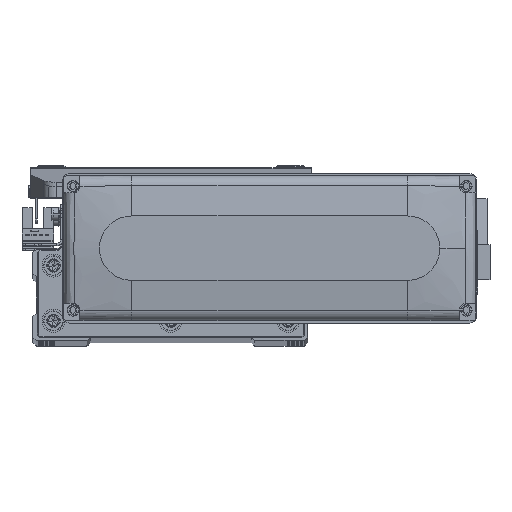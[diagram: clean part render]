
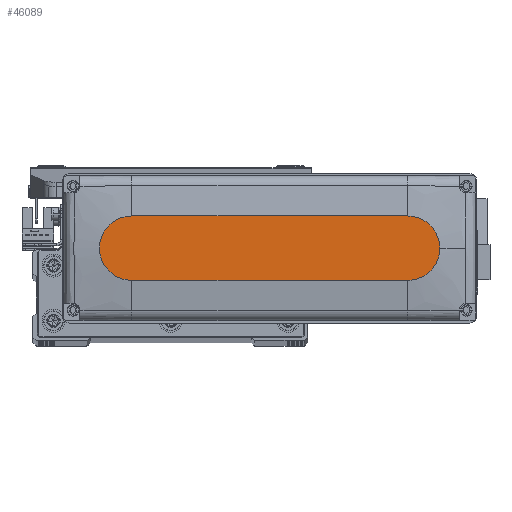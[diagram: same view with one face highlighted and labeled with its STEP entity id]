
A CAD part, top view. The second image highlights one B-rep face of the part: STEP entity #46089.
In plain terms, the highlighted planar face has unit normal (0, 0, 1).
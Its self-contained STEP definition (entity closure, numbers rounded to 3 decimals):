
#3701 = AXIS2_PLACEMENT_3D ( 'NONE', #13791, #9486, #5127 ) ;
#4186 = AXIS2_PLACEMENT_3D ( 'NONE', #51098, #32656, #32941 ) ;
#5061 = CARTESIAN_POINT ( 'NONE',  ( -60., -14., 28.5 ) ) ;
#5127 = DIRECTION ( 'NONE',  ( 1., 0., 0. ) ) ;
#5138 = CARTESIAN_POINT ( 'NONE',  ( -60., 0., 28.5 ) ) ;
#6777 = EDGE_CURVE ( 'NONE', #19245, #31150, #37729, .T. ) ;
#8167 = ORIENTED_EDGE ( 'NONE', *, *, #6777, .T. ) ;
#8309 = VERTEX_POINT ( 'NONE', #35741 ) ;
#8533 = CARTESIAN_POINT ( 'NONE',  ( -60., -14., 28.5 ) ) ;
#8786 = EDGE_LOOP ( 'NONE', ( #12645, #8167, #10257, #12351, #13480 ) ) ;
#9486 = DIRECTION ( 'NONE',  ( 0., 0., 1. ) ) ;
#10257 = ORIENTED_EDGE ( 'NONE', *, *, #48405, .T. ) ;
#12351 = ORIENTED_EDGE ( 'NONE', *, *, #30806, .T. ) ;
#12525 = VECTOR ( 'NONE', #43595, 1000. ) ;
#12645 = ORIENTED_EDGE ( 'NONE', *, *, #22344, .T. ) ;
#13480 = ORIENTED_EDGE ( 'NONE', *, *, #36833, .T. ) ;
#13791 = CARTESIAN_POINT ( 'NONE',  ( 60., 0., 28.5 ) ) ;
#14090 = VERTEX_POINT ( 'NONE', #37771 ) ;
#18031 = DIRECTION ( 'NONE',  ( 1., 0., 0. ) ) ;
#18133 = CARTESIAN_POINT ( 'NONE',  ( -60., 14., 28.5 ) ) ;
#19245 = VERTEX_POINT ( 'NONE', #18133 ) ;
#19954 = VECTOR ( 'NONE', #18031, 1000. ) ;
#20260 = CARTESIAN_POINT ( 'NONE',  ( 60., 0., 28.5 ) ) ;
#20830 = DIRECTION ( 'NONE',  ( 0., 0., 1. ) ) ;
#21363 = CARTESIAN_POINT ( 'NONE',  ( 60., 14., 28.5 ) ) ;
#22344 = EDGE_CURVE ( 'NONE', #28955, #19245, #25672, .T. ) ;
#25488 = CIRCLE ( 'NONE', #26403, 14. ) ;
#25672 = LINE ( 'NONE', #51969, #12525 ) ;
#26403 = AXIS2_PLACEMENT_3D ( 'NONE', #20260, #20830, #43076 ) ;
#26651 = AXIS2_PLACEMENT_3D ( 'NONE', #5138, #52807, #40084 ) ;
#26751 = CIRCLE ( 'NONE', #3701, 14. ) ;
#28955 = VERTEX_POINT ( 'NONE', #21363 ) ;
#29145 = PLANE ( 'NONE',  #4186 ) ;
#30806 = EDGE_CURVE ( 'NONE', #14090, #8309, #26751, .T. ) ;
#31150 = VERTEX_POINT ( 'NONE', #5061 ) ;
#32656 = DIRECTION ( 'NONE',  ( 0., 0., 1. ) ) ;
#32941 = DIRECTION ( 'NONE',  ( 1., 0., 0. ) ) ;
#35741 = CARTESIAN_POINT ( 'NONE',  ( 74., 0., 28.5 ) ) ;
#36833 = EDGE_CURVE ( 'NONE', #8309, #28955, #25488, .T. ) ;
#37729 = CIRCLE ( 'NONE', #26651, 14. ) ;
#37771 = CARTESIAN_POINT ( 'NONE',  ( 60., -14., 28.5 ) ) ;
#40084 = DIRECTION ( 'NONE',  ( 1., 0., 0. ) ) ;
#43076 = DIRECTION ( 'NONE',  ( 1., 0., 0. ) ) ;
#43595 = DIRECTION ( 'NONE',  ( -1., 0., 0. ) ) ;
#46089 = ADVANCED_FACE ( 'NONE', ( #50521 ), #29145, .T. ) ;
#48405 = EDGE_CURVE ( 'NONE', #31150, #14090, #53553, .T. ) ;
#50521 = FACE_OUTER_BOUND ( 'NONE', #8786, .T. ) ;
#51098 = CARTESIAN_POINT ( 'NONE',  ( 0., 0., 28.5 ) ) ;
#51969 = CARTESIAN_POINT ( 'NONE',  ( -60., 14., 28.5 ) ) ;
#52807 = DIRECTION ( 'NONE',  ( 0., 0., 1. ) ) ;
#53553 = LINE ( 'NONE', #8533, #19954 ) ;
